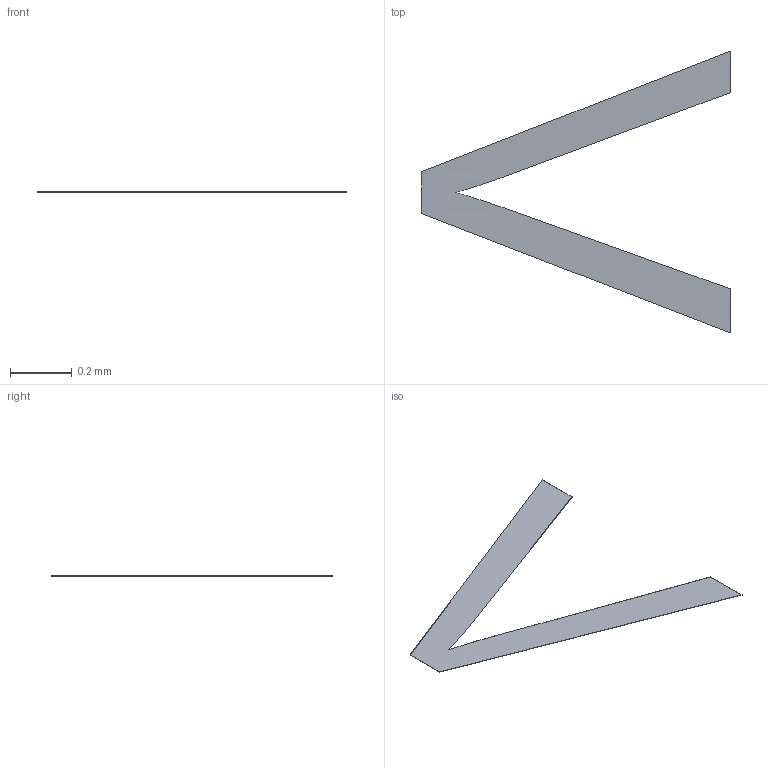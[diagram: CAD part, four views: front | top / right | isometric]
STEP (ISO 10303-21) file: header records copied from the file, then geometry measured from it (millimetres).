
FILE_DESCRIPTION(/* description */ ('STEP AP242 Edition 2','CAx-IF Rec.Pracs.---Representation and Presentation of Product Manufacturing Information (PMI)---4.0---2014-10-13','CAx-IF Rec.Pracs.---3D Tessellated Geometry---0.4---2014-09-14','2;1','CAx-IF Rec.Pracs.---User Defined Attributes---1.5---2016-08-15'),/* implementation_level */ '2;1');
FILE_NAME(/* name */ 'Drone Layout - Surface 364',/* time_stamp */ '2026-10-04T22:22:58Z',/* author */ (''),/* organization */ (''),/* preprocessor_version */ 'ST-DEVELOPER v20',/* originating_system */ 'ONSHAPE BY PTC INC, 1.221',/* authorisation */ ' ');
FILE_SCHEMA (('AP242_MANAGED_MODEL_BASED_3D_ENGINEERING_MIM_LF { 1 0 10303 442 3 1 4 }'));
Length unit declared in the file: metre
Products named in the file (1): VL53L0X:1__Body38
Bounding box: 1 x 0.91 x 0 mm (x, y, z)
Volume: 0 mm3; surface area: 0.5 mm2
Topology: 1 solids, 1 shells, 11 faces, 24 edges, 15 vertices
Faces by surface type: plane 9, cylinder 2
Entity records: 311 total; most frequent: DIRECTION 52, CARTESIAN_POINT 51, ORIENTED_EDGE 48, EDGE_CURVE 24, LINE 20, VECTOR 20, AXIS2_PLACEMENT_3D 16, VERTEX_POINT 15
